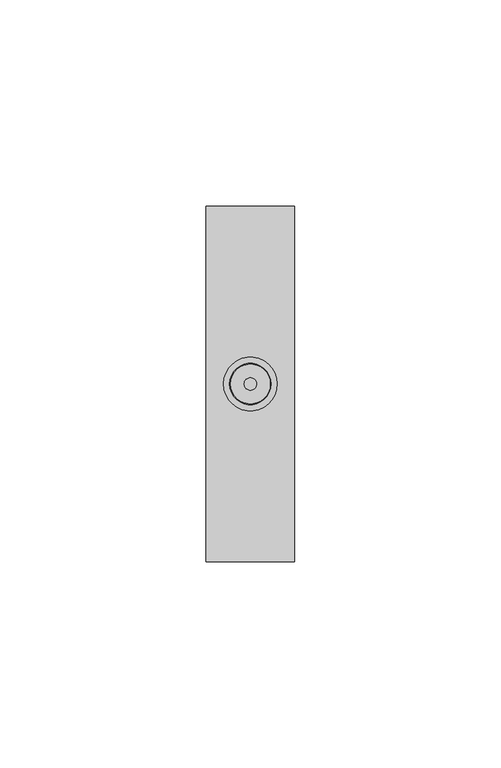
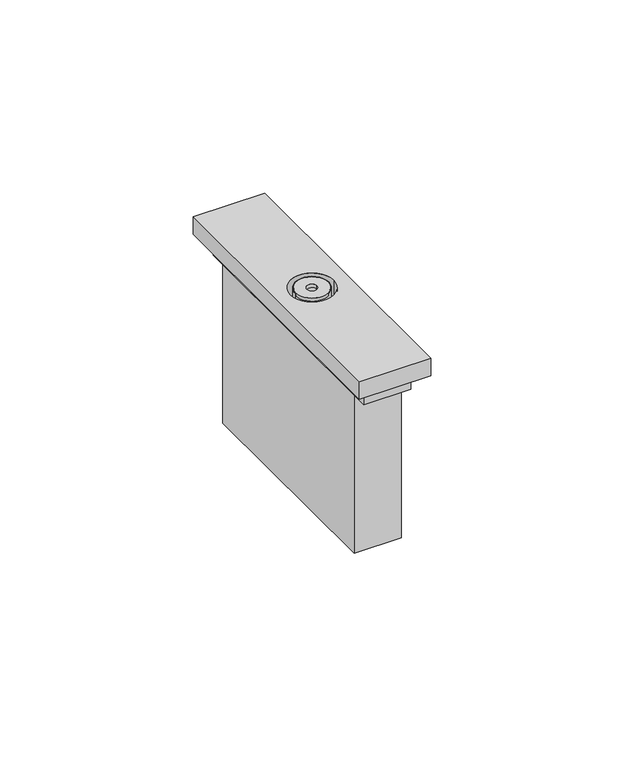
"""IFC4 building model written with IfcOpenShell, lengths in millimetres: electric appliance geometry, BT_LN-TV_A-K4202F : Presa Coassiale - Art. K4202F - 1M - Cover Nero."""

from ifc_helpers import new_model, si_unit, point, frame, origin, origin_with_axes, origin_2d, place, context, project, spatial, polyline, circle_curve, trimmed, segment, composite_curve, outline, extrude, source, transform, mapped, element, save
from ifc_brep_helpers import plane_surface, cylinder_surface, revolved_surface, advanced_brep


def electric_appliance_112297c8(model_context):
    return source(origin(), model_context, "Body", "SolidModel", [
        extrude(outline(composite_curve([segment(trimmed(circle_curve(origin_2d(), 4.8), [point((4.8, 0.0))], [point((-4.8, 0.0))], False, "CARTESIAN"), True, "CONTINUOUS"), segment(trimmed(circle_curve(origin_2d(), 4.8), [point((-4.8, 0.0))], [point((4.8, 0.0))], False, "CARTESIAN"), True, "CONTINUOUS")], self_intersect=False), holes=[composite_curve([segment(trimmed(circle_curve(origin_2d(), 1.5), [point((1.5, 0.0))], [point((-1.5, 0.0))], True, "CARTESIAN"), True, "CONTINUOUS"), segment(trimmed(circle_curve(origin_2d(), 1.5), [point((-1.5, 0.0))], [point((1.5, 0.0))], True, "CARTESIAN"), True, "CONTINUOUS")], self_intersect=False)]), frame((0.0, 0.0, 60.0), z_axis=(0.0, 0.0, 1.0), x_axis=(1.0, 0.0, 0.0)), (0.0, 0.0, 1.0), 1.0),
        extrude(outline(polyline([(-7.0, 39.0), (7.0, 39.0), (7.0, -39.0), (-7.0, -39.0), (-7.0, 39.0)]), holes=[composite_curve([segment(trimmed(circle_curve(origin_2d(), 6.8), [point((0.0, -6.8))], [point((0.0, 6.8))], True, "CARTESIAN"), True, "CONTINUOUS"), segment(trimmed(circle_curve(origin_2d(), 6.8), [point((0.0, 6.8))], [point((0.0, -6.8))], True, "CARTESIAN"), True, "CONTINUOUS")], self_intersect=False)]), frame((0.0, 0.0, 50.0), z_axis=(0.0, 0.0, 1.0), x_axis=(1.0, 0.0, 0.0)), (0.0, 0.0, 1.0), 5.5),
        extrude(outline(polyline([(-7.0, 34.0), (7.0, 34.0), (7.0, -34.0), (-7.0, -34.0), (-7.0, 34.0)])), origin_with_axes(), (0.0, 0.0, 1.0), 50.0),
        advanced_brep(
        [(5.0, 0.0, 61.0), (-5.0, 0.0, 61.0), (-4.8, 0.0, 61.0), (4.8, 0.0, 61.0), (5.0, 0.0, 50.0), (-5.0, 0.0, 50.0), (1.5, 0.0, 50.0), (-1.5, 0.0, 50.0), (-1.5, 0.0, 60.0), (1.5, 0.0, 60.0), (4.8, 0.0, 60.0), (-4.8, 0.0, 60.0)],
        [
            (0, 1, circle_curve(frame((0.0, 0.0, 61.0), z_axis=(0.0, 0.0, 1.0), x_axis=(-1.0, 0.0, 0.0)), 5.0)),
            (1, 0, circle_curve(frame((0.0, 0.0, 61.0), z_axis=(0.0, 0.0, 1.0), x_axis=(-1.0, 0.0, 0.0)), 5.0)),
            (2, 3, circle_curve(frame((0.0, 0.0, 61.0), z_axis=(0.0, 0.0, -1.0), x_axis=(-1.0, 0.0, 0.0)), 4.8)),
            (3, 2, circle_curve(frame((0.0, 0.0, 61.0), z_axis=(0.0, 0.0, -1.0), x_axis=(-1.0, 0.0, 0.0)), 4.8)),
            (4, 5, circle_curve(frame((0.0, 0.0, 50.0), z_axis=(0.0, 0.0, -1.0), x_axis=(-1.0, 0.0, 0.0)), 5.0)),
            (5, 4, circle_curve(frame((0.0, 0.0, 50.0), z_axis=(0.0, 0.0, -1.0), x_axis=(-1.0, 0.0, 0.0)), 5.0)),
            (6, 7, circle_curve(frame((0.0, 0.0, 50.0), z_axis=(0.0, 0.0, 1.0), x_axis=(-1.0, 0.0, 0.0)), 1.5)),
            (7, 6, circle_curve(frame((0.0, 0.0, 50.0), z_axis=(0.0, 0.0, 1.0), x_axis=(-1.0, 0.0, 0.0)), 1.5)),
            (0, 4),
            (5, 1),
            (7, 8),
            (8, 9, circle_curve(frame((0.0, 0.0, 60.0), z_axis=(0.0, 0.0, 1.0), x_axis=(-1.0, 0.0, 0.0)), 1.5)),
            (9, 6),
            (9, 8, circle_curve(frame((0.0, 0.0, 60.0), z_axis=(0.0, 0.0, 1.0), x_axis=(-1.0, 0.0, 0.0)), 1.5)),
            (10, 11, circle_curve(frame((0.0, 0.0, 60.0), z_axis=(0.0, 0.0, 1.0), x_axis=(-1.0, 0.0, 0.0)), 4.8)),
            (11, 10, circle_curve(frame((0.0, 0.0, 60.0), z_axis=(0.0, 0.0, 1.0), x_axis=(-1.0, 0.0, 0.0)), 4.8)),
            (10, 3),
            (2, 11),
        ],
        [
            plane_surface(frame((-5.0, 0.0, 61.0), z_axis=(0.0, 0.0, 1.0), x_axis=(0.0, -1.0, 0.0))),
            plane_surface(frame((-5.0, 0.0, 50.0), z_axis=(0.0, 0.0, -1.0), x_axis=(0.0, 1.0, 0.0))),
            cylinder_surface(frame((0.0, 0.0, 50.0), z_axis=(0.0, 0.0, 1.0), x_axis=(-1.0, 0.0, 0.0)), 5.0),
            revolved_surface(polyline([(-1.5, 0.0, 50.0), (-1.5, 0.0, 60.0)]), (0.0, 0.0, 61.0), (0.0, 0.0, -1.0)),
            plane_surface(frame((-4.8, 0.0, 60.0), z_axis=(0.0, 0.0, 1.0), x_axis=(0.0, 1.0, 0.0))),
            revolved_surface(polyline([(-4.8, 0.0, 61.0), (-4.8, 0.0, 60.0)]), (0.0, 0.0, 60.0), (0.0, 0.0, 1.0)),
        ],
        [
            (0, [[1, 2], [3, 4]]),
            (1, [[5, 6], [7, 8]]),
            (2, [[-1, 9, -6, 10]]),
            (2, [[-2, -10, -5, -9]]),
            (3, [[-8, 11, 12, 13]]),
            (3, [[-7, -13, 14, -11]]),
            (4, [[15, 16], [-12, -14]]),
            (5, [[-15, 17, -3, 18]]),
            (5, [[-16, -18, -4, -17]]),
        ],
    ),
        extrude(outline(polyline([(-10.7, -43.0), (-10.7, 43.0), (10.7, 43.0), (10.7, -43.0), (-10.7, -43.0)]), holes=[composite_curve([segment(trimmed(circle_curve(origin_2d(), 6.5), [point((6.5, 0.0))], [point((-6.5, 0.0))], True, "CARTESIAN"), True, "CONTINUOUS"), segment(trimmed(circle_curve(origin_2d(), 6.5), [point((-6.5, 0.0))], [point((6.5, 0.0))], True, "CARTESIAN"), True, "CONTINUOUS")], self_intersect=False)]), frame((0.0, 0.0, 55.5), z_axis=(0.0, 0.0, 1.0), x_axis=(1.0, 0.0, 0.0)), (0.0, 0.0, 1.0), 5.5),
    ])


if __name__ == "__main__":
    model = new_model("IFC4")
    model_context = context("Model", 3, world=origin())
    ifc_project = project(units=[si_unit("LENGTHUNIT", "METRE", prefix="MILLI")], contexts=[model_context])
    site = spatial("IfcSite", under=ifc_project)
    building = spatial("IfcBuilding", under=site)
    placement = place(None, origin())
    electric_appliance_shape = electric_appliance_112297c8(model_context)
    element("IfcElectricAppliance", 1, ObjectType="BT_LN-TV_A-K4202F : Presa Coassiale - Art. K4202F - 1M - Cover Nero", at=placement, inside=building, context=model_context, shape_type="MappedRepresentation", body=[
        mapped(electric_appliance_shape, transform((0.0, 0.0, 0.0), x_axis=(1.0, 0.0, 0.0), y_axis=(0.0, 1.0, 0.0), z_axis=(0.0, 0.0, 1.0))),
    ])
    save(model, "model.ifc")
